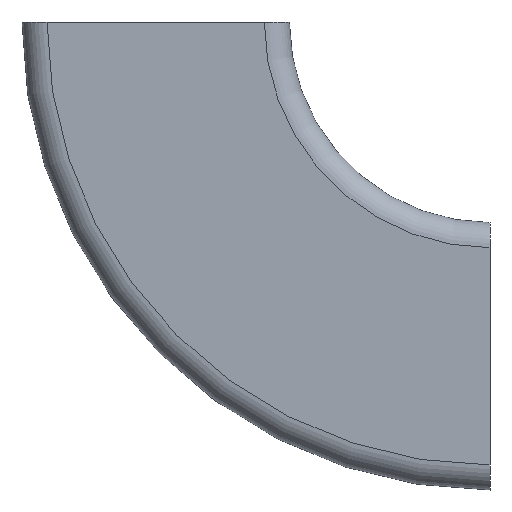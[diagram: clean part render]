
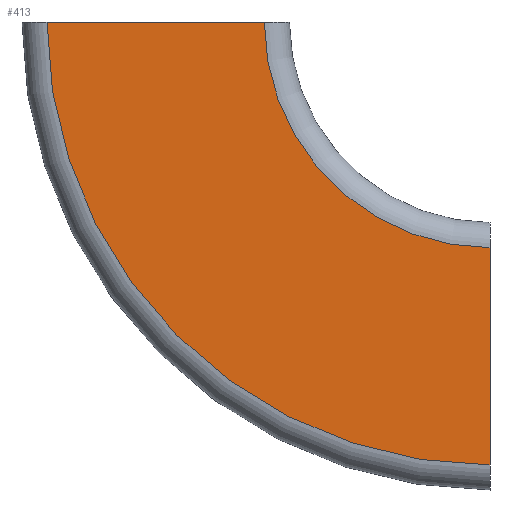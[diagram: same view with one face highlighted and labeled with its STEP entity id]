
A CAD part, left-side view. The second image highlights one B-rep face of the part: STEP entity #413.
In plain terms, the highlighted planar face has unit normal (-1, 0, 0).
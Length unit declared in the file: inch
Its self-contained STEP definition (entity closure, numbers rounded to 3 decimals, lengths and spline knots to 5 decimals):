
#345=CARTESIAN_POINT('',(-0.5,-1.25,-1.65625));
#346=VERTEX_POINT('',#345);
#354=CARTESIAN_POINT('',(-0.5,0.40625,0.0));
#355=VERTEX_POINT('',#354);
#356=CARTESIAN_POINT('',(-0.5,-1.25,0.0));
#357=DIRECTION('',(-1.0,0.0,0.0));
#358=DIRECTION('',(0.0,1.0,0.0));
#359=AXIS2_PLACEMENT_3D('',#356,#357,#358);
#360=CIRCLE('',#359,1.65625);
#361=EDGE_CURVE('',#355,#346,#360,.T.);
#382=CARTESIAN_POINT('',(-0.5,0.,0.0));
#383=DIRECTION('',(-1.0,0.0,0.0));
#384=DIRECTION('',(0.0,0.0,1.0));
#385=AXIS2_PLACEMENT_3D('',#382,#383,#384);
#386=PLANE('',#385);
#387=CARTESIAN_POINT('',(-0.5,-1.25,-0.84375));
#388=VERTEX_POINT('',#387);
#389=CARTESIAN_POINT('',(-0.5,-1.25,-1.65625));
#390=DIRECTION('',(0.0,0.0,1.0));
#391=VECTOR('',#390,0.8125);
#392=LINE('',#389,#391);
#393=EDGE_CURVE('',#346,#388,#392,.T.);
#394=ORIENTED_EDGE('',*,*,#393,.T.);
#395=CARTESIAN_POINT('',(-0.5,-0.40625,0.0));
#396=VERTEX_POINT('',#395);
#397=CARTESIAN_POINT('',(-0.5,-1.25,0.0));
#398=DIRECTION('',(-1.0,0.0,0.0));
#399=DIRECTION('',(0.0,1.0,0.0));
#400=AXIS2_PLACEMENT_3D('',#397,#398,#399);
#401=CIRCLE('',#400,0.84375);
#402=EDGE_CURVE('',#396,#388,#401,.T.);
#403=ORIENTED_EDGE('',*,*,#402,.F.);
#404=CARTESIAN_POINT('',(-0.5,0.40625,0.0));
#405=DIRECTION('',(0.0,-1.0,0.0));
#406=VECTOR('',#405,0.8125);
#407=LINE('',#404,#406);
#408=EDGE_CURVE('',#355,#396,#407,.T.);
#409=ORIENTED_EDGE('',*,*,#408,.F.);
#410=ORIENTED_EDGE('',*,*,#361,.T.);
#411=EDGE_LOOP('',(#394,#403,#409,#410));
#412=FACE_OUTER_BOUND('',#411,.T.);
#413=ADVANCED_FACE('',(#412),#386,.T.);
